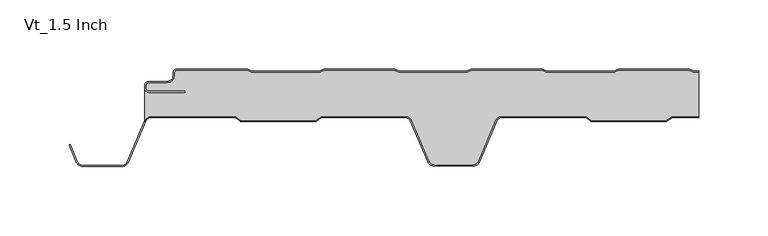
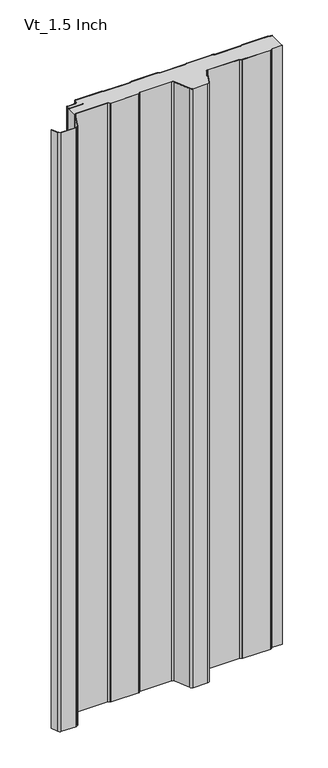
"""IFC4 building model written with IfcOpenShell, lengths in millimetres: plate geometry, AWIP_R18_CP_HR5_Vt_Roof Panel : Vt_1.5 Inch."""

from ifc_helpers import new_model, si_unit, point, frame, frame_2d, origin, origin_with_axes, place, context, project, spatial, polyline, circle_curve, trimmed, segment, composite_curve, outline, extrude, source, transform, mapped, element, save
from ifc_brep_helpers import plane_surface, cylinder_surface, revolved_surface, advanced_brep


def vt_1_5_inch_b53bcd6c(model_context):
    return source(origin(), model_context, "Body", "SolidModel", [
        extrude(outline(composite_curve([segment(polyline([(212.4037368, -1.5), (215.9042607, -1.5), (215.9042607, -2.3), (212.4037368, -2.3)]), True, "CONTINUOUS"), segment(trimmed(circle_curve(frame_2d((212.4037368, 1.0)), 3.3), [point((212.4037368, -2.3))], [point((211.0949824, -2.0293831))], False, "CARTESIAN"), True, "CONTINUOUS"), segment(polyline([(211.0949824, -2.0293831), (208.7048832, -0.9968123)]), True, "CONTINUOUS"), segment(trimmed(circle_curve(frame_2d((207.7530619, -3.2)), 2.4), [point((208.7048832, -0.9968123))], [point((207.7530619, -0.8))], True, "CARTESIAN"), True, "CONTINUOUS"), segment(polyline([(207.7530619, -0.8), (158.8384168, -0.8)]), True, "CONTINUOUS"), segment(trimmed(circle_curve(frame_2d((158.8384168, -3.2)), 2.4), [point((158.8384168, -0.8))], [point((157.8865954, -0.9968123))], True, "CARTESIAN"), True, "CONTINUOUS"), segment(polyline([(157.8865954, -0.9968123), (155.4964962, -2.0293831)]), True, "CONTINUOUS"), segment(trimmed(circle_curve(frame_2d((154.1877419, 1.0)), 3.3), [point((155.4964962, -2.0293831))], [point((154.1877419, -2.3))], False, "CARTESIAN"), True, "CONTINUOUS"), segment(polyline([(154.1877419, -2.3), (105.8037368, -2.3)]), True, "CONTINUOUS"), segment(trimmed(circle_curve(frame_2d((105.8037368, 1.0)), 3.3), [point((105.8037368, -2.3))], [point((104.4949824, -2.0293831))], False, "CARTESIAN"), True, "CONTINUOUS"), segment(polyline([(104.4949824, -2.0293831), (102.1048832, -0.9968123)]), True, "CONTINUOUS"), segment(trimmed(circle_curve(frame_2d((101.1530619, -3.2)), 2.4), [point((102.1048832, -0.9968123))], [point((101.1530619, -0.8))], True, "CARTESIAN"), True, "CONTINUOUS"), segment(polyline([(101.1530619, -0.8), (52.2384168, -0.8)]), True, "CONTINUOUS"), segment(trimmed(circle_curve(frame_2d((52.2384168, -3.2)), 2.4), [point((52.2384168, -0.8))], [point((51.2865954, -0.9968123))], True, "CARTESIAN"), True, "CONTINUOUS"), segment(polyline([(51.2865954, -0.9968123), (48.8964962, -2.0293831)]), True, "CONTINUOUS"), segment(trimmed(circle_curve(frame_2d((47.5877419, 1.0)), 3.3), [point((48.8964962, -2.0293831))], [point((47.5877419, -2.3))], False, "CARTESIAN"), True, "CONTINUOUS"), segment(polyline([(47.5877419, -2.3), (-0.7962632, -2.3)]), True, "CONTINUOUS"), segment(trimmed(circle_curve(frame_2d((-0.7962632, 1.0)), 3.3), [point((-0.7962632, -2.3))], [point((-2.1050176, -2.0293831))], False, "CARTESIAN"), True, "CONTINUOUS"), segment(polyline([(-2.1050176, -2.0293831), (-4.4951168, -0.9968123)]), True, "CONTINUOUS"), segment(trimmed(circle_curve(frame_2d((-5.4469381, -3.2)), 2.4), [point((-4.4951168, -0.9968123))], [point((-5.4469381, -0.8))], True, "CARTESIAN"), True, "CONTINUOUS"), segment(polyline([(-5.4469381, -0.8), (-54.3615832, -0.8)]), True, "CONTINUOUS"), segment(trimmed(circle_curve(frame_2d((-54.3615832, -3.2)), 2.4), [point((-54.3615832, -0.8))], [point((-55.3134046, -0.9968123))], True, "CARTESIAN"), True, "CONTINUOUS"), segment(polyline([(-55.3134046, -0.9968123), (-57.7035038, -2.0293831)]), True, "CONTINUOUS"), segment(trimmed(circle_curve(frame_2d((-59.0122581, 1.0)), 3.3), [point((-57.7035038, -2.0293831))], [point((-59.0122581, -2.3))], False, "CARTESIAN"), True, "CONTINUOUS"), segment(polyline([(-59.0122581, -2.3), (-107.3962632, -2.3)]), True, "CONTINUOUS"), segment(trimmed(circle_curve(frame_2d((-107.3962632, 1.0)), 3.3), [point((-107.3962632, -2.3))], [point((-108.7050176, -2.0293831))], False, "CARTESIAN"), True, "CONTINUOUS"), segment(polyline([(-108.7050176, -2.0293831), (-111.0951168, -0.9968123)]), True, "CONTINUOUS"), segment(trimmed(circle_curve(frame_2d((-112.0469381, -3.2)), 2.4), [point((-111.0951168, -0.9968123))], [point((-112.0469381, -0.8))], True, "CARTESIAN"), True, "CONTINUOUS"), segment(polyline([(-112.0469381, -0.8), (-161.8042607, -0.8)]), True, "CONTINUOUS"), segment(trimmed(circle_curve(frame_2d((-161.8042607, -3.0)), 2.2), [point((-161.8042607, -0.8))], [point((-164.0042607, -3.0))], True, "CARTESIAN"), True, "CONTINUOUS"), segment(polyline([(-164.0042607, -3.0), (-164.0042607, -5.0)]), True, "CONTINUOUS"), segment(trimmed(circle_curve(frame_2d((-168.8042607, -5.0)), 4.8), [point((-164.0042607, -5.0))], [point((-168.8042607, -9.8))], False, "CARTESIAN"), True, "CONTINUOUS"), segment(polyline([(-168.8042607, -9.8), (-182.3200708, -9.8)]), True, "CONTINUOUS"), segment(trimmed(circle_curve(frame_2d((-182.3200708, -12.0)), 2.2), [point((-182.3200708, -9.8))], [point((-184.5200708, -12.0))], True, "CARTESIAN"), True, "CONTINUOUS"), segment(polyline([(-184.5200708, -12.0), (-184.5200708, -14.0)]), True, "CONTINUOUS"), segment(trimmed(circle_curve(frame_2d((-182.3200708, -14.0)), 2.2), [point((-184.5200708, -14.0))], [point((-182.3200708, -16.2))], True, "CARTESIAN"), True, "CONTINUOUS"), segment(polyline([(-182.3200708, -16.2), (-156.3790289, -16.2), (-156.3790289, -17.0), (-182.3200708, -17.0)]), True, "CONTINUOUS"), segment(trimmed(circle_curve(frame_2d((-182.3200708, -14.0)), 3.0), [point((-182.3200708, -17.0))], [point((-185.3200708, -14.0))], False, "CARTESIAN"), True, "CONTINUOUS"), segment(polyline([(-185.3200708, -14.0), (-185.3200708, -12.0)]), True, "CONTINUOUS"), segment(trimmed(circle_curve(frame_2d((-182.3200708, -12.0)), 3.0), [point((-185.3200708, -12.0))], [point((-182.3200708, -9.0))], False, "CARTESIAN"), True, "CONTINUOUS"), segment(polyline([(-182.3200708, -9.0), (-168.8042607, -9.0)]), True, "CONTINUOUS"), segment(trimmed(circle_curve(frame_2d((-168.8042607, -5.0)), 4.0), [point((-168.8042607, -9.0))], [point((-164.8042607, -5.0))], True, "CARTESIAN"), True, "CONTINUOUS"), segment(polyline([(-164.8042607, -5.0), (-164.8042607, -3.0)]), True, "CONTINUOUS"), segment(trimmed(circle_curve(frame_2d((-161.8042607, -3.0)), 3.0), [point((-164.8042607, -3.0))], [point((-161.8042607, 0.0))], False, "CARTESIAN"), True, "CONTINUOUS"), segment(polyline([(-161.8042607, 0.0), (-112.0469381, 0.0)]), True, "CONTINUOUS"), segment(trimmed(circle_curve(frame_2d((-112.0469381, -3.2)), 3.2), [point((-112.0469381, 0.0))], [point((-110.777843, -0.2624164))], False, "CARTESIAN"), True, "CONTINUOUS"), segment(polyline([(-110.777843, -0.2624164), (-108.3877438, -1.2949872)]), True, "CONTINUOUS"), segment(trimmed(circle_curve(frame_2d((-107.3962632, 1.0)), 2.5), [point((-108.3877438, -1.2949872))], [point((-107.3962632, -1.5))], True, "CARTESIAN"), True, "CONTINUOUS"), segment(polyline([(-107.3962632, -1.5), (-59.0122581, -1.5)]), True, "CONTINUOUS"), segment(trimmed(circle_curve(frame_2d((-59.0122581, 1.0)), 2.5), [point((-59.0122581, -1.5))], [point((-58.0207775, -1.2949872))], True, "CARTESIAN"), True, "CONTINUOUS"), segment(polyline([(-58.0207775, -1.2949872), (-55.6306783, -0.2624164)]), True, "CONTINUOUS"), segment(trimmed(circle_curve(frame_2d((-54.3615832, -3.2)), 3.2), [point((-55.6306783, -0.2624164))], [point((-54.3615832, 0.0))], False, "CARTESIAN"), True, "CONTINUOUS"), segment(polyline([(-54.3615832, 0.0), (-5.4469381, 0.0)]), True, "CONTINUOUS"), segment(trimmed(circle_curve(frame_2d((-5.4469381, -3.2)), 3.2), [point((-5.4469381, 0.0))], [point((-4.177843, -0.2624164))], False, "CARTESIAN"), True, "CONTINUOUS"), segment(polyline([(-4.177843, -0.2624164), (-1.7877438, -1.2949872)]), True, "CONTINUOUS"), segment(trimmed(circle_curve(frame_2d((-0.7962632, 1.0)), 2.5), [point((-1.7877438, -1.2949872))], [point((-0.7962632, -1.5))], True, "CARTESIAN"), True, "CONTINUOUS"), segment(polyline([(-0.7962632, -1.5), (47.5877419, -1.5)]), True, "CONTINUOUS"), segment(trimmed(circle_curve(frame_2d((47.5877419, 1.0)), 2.5), [point((47.5877419, -1.5))], [point((48.5792225, -1.2949872))], True, "CARTESIAN"), True, "CONTINUOUS"), segment(polyline([(48.5792225, -1.2949872), (50.9693217, -0.2624164)]), True, "CONTINUOUS"), segment(trimmed(circle_curve(frame_2d((52.2384168, -3.2)), 3.2), [point((50.9693217, -0.2624164))], [point((52.2384168, 0.0))], False, "CARTESIAN"), True, "CONTINUOUS"), segment(polyline([(52.2384168, 0.0), (101.1530619, 0.0)]), True, "CONTINUOUS"), segment(trimmed(circle_curve(frame_2d((101.1530619, -3.2)), 3.2), [point((101.1530619, 0.0))], [point((102.422157, -0.2624164))], False, "CARTESIAN"), True, "CONTINUOUS"), segment(polyline([(102.422157, -0.2624164), (104.8122562, -1.2949872)]), True, "CONTINUOUS"), segment(trimmed(circle_curve(frame_2d((105.8037368, 1.0)), 2.5), [point((104.8122562, -1.2949872))], [point((105.8037368, -1.5))], True, "CARTESIAN"), True, "CONTINUOUS"), segment(polyline([(105.8037368, -1.5), (154.1877419, -1.5)]), True, "CONTINUOUS"), segment(trimmed(circle_curve(frame_2d((154.1877419, 1.0)), 2.5), [point((154.1877419, -1.5))], [point((155.1792225, -1.2949872))], True, "CARTESIAN"), True, "CONTINUOUS"), segment(polyline([(155.1792225, -1.2949872), (157.5693217, -0.2624164)]), True, "CONTINUOUS"), segment(trimmed(circle_curve(frame_2d((158.8384168, -3.2)), 3.2), [point((157.5693217, -0.2624164))], [point((158.8384168, 0.0))], False, "CARTESIAN"), True, "CONTINUOUS"), segment(polyline([(158.8384168, 0.0), (207.7530619, 0.0)]), True, "CONTINUOUS"), segment(trimmed(circle_curve(frame_2d((207.7530619, -3.2)), 3.2), [point((207.7530619, 0.0))], [point((209.022157, -0.2624164))], False, "CARTESIAN"), True, "CONTINUOUS"), segment(polyline([(209.022157, -0.2624164), (211.4122562, -1.2949872)]), True, "CONTINUOUS"), segment(trimmed(circle_curve(frame_2d((212.4037368, 1.0)), 2.5), [point((211.4122562, -1.2949872))], [point((212.4037368, -1.5))], True, "CARTESIAN"), True, "CONTINUOUS")], self_intersect=False)), origin_with_axes(), (0.0, 0.0, 1.0), 1219.2),
        advanced_brep(
        [(215.9042607, -34.515881, 1219.2), (215.9042607, -34.515881, 0.0), (215.9042607, -2.3, 0.0), (215.9042607, -2.3, 1219.2), (20.6286335, -66.9261781, 1219.2), (20.6286335, -66.9261781, 0.0), (24.4947652, -69.4851339, 0.0), (24.4947652, -69.4851339, 1219.2), (8.1129027, -37.4404018, 1219.2), (8.1129027, -37.4404018, 0.0), (3.6944665, -34.5158809, 1219.2), (3.6944665, -34.5158809, 0.0), (-57.1542841, -34.5158809, 1219.2), (-57.1542841, -34.5158809, 0.0), (-57.915674, -34.76218, 1219.2), (-57.915674, -34.76218, 0.0), (-61.4278085, -37.3000003, 1219.2), (-61.4278085, -37.3000003, 0.0), (-115.6306887, -37.3000003, 1219.2), (-115.6306887, -37.3000003, 0.0), (-119.1428234, -34.7621799, 1219.2), (-119.1428234, -34.7621799, 0.0), (-119.9042132, -34.5158808, 1219.2), (-119.9042132, -34.5158808, 0.0), (-180.6881301, -34.5158808, 1219.2), (-180.6881301, -34.5158808, 0.0), (-185.3370174, -38.1209553, 1219.2), (-185.3370174, -38.1209553, 0.0), (-185.3370174, -14.0, 1219.2), (-185.3370174, -14.0, 0.0), (-182.3370174, -17.0, 1219.2), (-182.3370174, -17.0, 0.0), (-156.3959754, -17.0, 1219.2), (-156.3959754, -17.0, 0.0), (-156.3959754, -16.2, 1219.2), (-156.3959754, -16.2, 0.0), (-182.3370174, -16.2, 1219.2), (-182.3370174, -16.2, 0.0), (-184.5370174, -14.0, 1219.2), (-184.5370174, -14.0, 0.0), (-184.5370174, -12.0, 1219.2), (-184.5370174, -12.0, 0.0), (-182.3370174, -9.8, 1219.2), (-182.3370174, -9.8, 0.0), (-168.8212072, -9.8, 1219.2), (-168.8212072, -9.8, 0.0), (-164.0212072, -5.0, 1219.2), (-164.0212072, -5.0, 0.0), (-164.0212072, -3.0, 1219.2), (-164.0212072, -3.0, 0.0), (-161.8212072, -0.8, 1219.2), (-161.8212072, -0.8, 0.0), (-112.0638847, -0.8, 1219.2), (-112.0638847, -0.8, 0.0), (-111.1120633, -0.9968123, 1219.2), (-111.1120633, -0.9968123, 0.0), (-108.7219641, -2.0293831, 1219.2), (-108.7219641, -2.0293831, 0.0), (-107.4132098, -2.3, 1219.2), (-107.4132098, -2.3, 0.0), (-59.0292047, -2.3, 1219.2), (-59.0292047, -2.3, 0.0), (-57.7204503, -2.0293831, 1219.2), (-57.7204503, -2.0293831, 0.0), (-55.3303511, -0.9968123, 1219.2), (-55.3303511, -0.9968123, 0.0), (-54.3785298, -0.8, 1219.2), (-54.3785298, -0.8, 0.0), (-5.4638847, -0.8, 1219.2), (-5.4638847, -0.8, 0.0), (-4.5120633, -0.9968123, 1219.2), (-4.5120633, -0.9968123, 0.0), (52.1967135, -69.4851339, 1219.2), (56.0628451, -66.9261781, 1219.2), (68.5785758, -37.440402, 1219.2), (72.9970122, -34.515881, 1219.2), (133.8457671, -34.515881, 1219.2), (134.607157, -34.7621802, 1219.2), (138.119291, -37.3000003, 1219.2), (192.3221722, -37.3000003, 1219.2), (195.8343063, -34.7621803, 1219.2), (196.5956965, -34.515881, 1219.2), (212.3867902, -2.3, 1219.2), (211.0780359, -2.0293831, 1219.2), (208.6879367, -0.9968123, 1219.2), (207.7361153, -0.8, 1219.2), (158.8214702, -0.8, 1219.2), (157.8696489, -0.9968123, 1219.2), (155.4795497, -2.0293831, 1219.2), (154.1707953, -2.3, 1219.2), (105.7867902, -2.3, 1219.2), (104.4780359, -2.0293831, 1219.2), (102.0879367, -0.9968123, 1219.2), (101.1361153, -0.8, 1219.2), (52.2214702, -0.8, 1219.2), (51.2696489, -0.9968123, 1219.2), (48.8795497, -2.0293831, 1219.2), (47.5707953, -2.3, 1219.2), (-0.8132098, -2.3, 1219.2), (-2.1219641, -2.0293831, 1219.2), (52.1967135, -69.4851339, 0.0), (-2.1219641, -2.0293831, 0.0), (-0.8132098, -2.3, 0.0), (47.5707953, -2.3, 0.0), (48.8795497, -2.0293831, 0.0), (51.2696489, -0.9968123, 0.0), (52.2214702, -0.8, 0.0), (101.1361153, -0.8, 0.0), (102.0879367, -0.9968123, 0.0), (104.4780359, -2.0293831, 0.0), (105.7867902, -2.3, 0.0), (154.1707953, -2.3, 0.0), (155.4795497, -2.0293831, 0.0), (157.8696489, -0.9968123, 0.0), (158.8214702, -0.8, 0.0), (207.7361153, -0.8, 0.0), (208.6879367, -0.9968123, 0.0), (211.0780359, -2.0293831, 0.0), (212.3867902, -2.3, 0.0), (196.5956965, -34.515881, 0.0), (195.8343063, -34.7621803, 0.0), (192.3221722, -37.3000003, 0.0), (138.119291, -37.3000003, 0.0), (134.607157, -34.7621802, 0.0), (133.8457671, -34.515881, 0.0), (72.9970122, -34.515881, 0.0), (68.5785758, -37.440402, 0.0), (56.0628451, -66.9261781, 0.0)],
        [
            (0, 1),
            (1, 2),
            (2, 3),
            (3, 0),
            (4, 5),
            (5, 6, circle_curve(frame((24.4947652, -65.2851339, 0.0), z_axis=(0.0, 0.0, 1.0), x_axis=(1.0, 0.0, 0.0)), 4.2)),
            (6, 7),
            (7, 4, circle_curve(frame((24.4947652, -65.2851339, 1219.2), z_axis=(0.0, 0.0, -1.0), x_axis=(1.0, 0.0, 0.0)), 4.2)),
            (8, 9),
            (9, 5),
            (4, 8),
            (10, 11),
            (11, 9, circle_curve(frame((3.6944665, -39.3158809, 0.0), z_axis=(0.0, 0.0, -1.0), x_axis=(1.0, 0.0, 0.0)), 4.8000001)),
            (8, 10, circle_curve(frame((3.6944665, -39.3158809, 1219.2), z_axis=(0.0, 0.0, 1.0), x_axis=(1.0, 0.0, 0.0)), 4.8000001)),
            (12, 13),
            (13, 11),
            (10, 12),
            (14, 15),
            (15, 13, circle_curve(frame((-57.1542841, -35.8158809, 0.0), z_axis=(0.0, 0.0, -1.0), x_axis=(1.0, 0.0, 0.0)), 1.3)),
            (12, 14, circle_curve(frame((-57.1542841, -35.8158809, 1219.2), z_axis=(0.0, 0.0, 1.0), x_axis=(1.0, 0.0, 0.0)), 1.3)),
            (16, 17),
            (17, 15),
            (14, 16),
            (18, 19),
            (19, 17),
            (16, 18),
            (20, 21),
            (21, 19),
            (18, 20),
            (22, 23),
            (23, 21, circle_curve(frame((-119.9042132, -35.8158808, 0.0), z_axis=(0.0, 0.0, -1.0), x_axis=(1.0, 0.0, 0.0)), 1.3)),
            (20, 22, circle_curve(frame((-119.9042132, -35.8158808, 1219.2), z_axis=(0.0, 0.0, 1.0), x_axis=(1.0, 0.0, 0.0)), 1.3)),
            (24, 25),
            (25, 23),
            (22, 24),
            (26, 27),
            (27, 25, circle_curve(frame((-180.6881301, -39.3158808, 0.0), z_axis=(0.0, 0.0, -1.0), x_axis=(1.0, 0.0, 0.0)), 4.8)),
            (24, 26, circle_curve(frame((-180.6881301, -39.3158808, 1219.2), z_axis=(0.0, 0.0, 1.0), x_axis=(1.0, 0.0, 0.0)), 4.8)),
            (28, 29),
            (29, 27),
            (26, 28),
            (30, 31),
            (31, 29, circle_curve(frame((-182.3370174, -14.0, 0.0), z_axis=(0.0, 0.0, -1.0), x_axis=(1.0, 0.0, 0.0)), 3.0)),
            (28, 30, circle_curve(frame((-182.3370174, -14.0, 1219.2), z_axis=(0.0, 0.0, 1.0), x_axis=(1.0, 0.0, 0.0)), 3.0)),
            (32, 33),
            (33, 31),
            (30, 32),
            (34, 35),
            (35, 33),
            (32, 34),
            (36, 37),
            (37, 35),
            (34, 36),
            (38, 39),
            (39, 37, circle_curve(frame((-182.3370174, -14.0, 0.0), z_axis=(0.0, 0.0, 1.0), x_axis=(1.0, 0.0, 0.0)), 2.2)),
            (36, 38, circle_curve(frame((-182.3370174, -14.0, 1219.2), z_axis=(0.0, 0.0, -1.0), x_axis=(1.0, 0.0, 0.0)), 2.2)),
            (40, 41),
            (41, 39),
            (38, 40),
            (42, 43),
            (43, 41, circle_curve(frame((-182.3370174, -12.0, 0.0), z_axis=(0.0, 0.0, 1.0), x_axis=(1.0, 0.0, 0.0)), 2.2)),
            (40, 42, circle_curve(frame((-182.3370174, -12.0, 1219.2), z_axis=(0.0, 0.0, -1.0), x_axis=(1.0, 0.0, 0.0)), 2.2)),
            (44, 45),
            (45, 43),
            (42, 44),
            (46, 47),
            (47, 45, circle_curve(frame((-168.8212072, -5.0, 0.0), z_axis=(0.0, 0.0, -1.0), x_axis=(1.0, 0.0, 0.0)), 4.8)),
            (44, 46, circle_curve(frame((-168.8212072, -5.0, 1219.2), z_axis=(0.0, 0.0, 1.0), x_axis=(1.0, 0.0, 0.0)), 4.8)),
            (48, 49),
            (49, 47),
            (46, 48),
            (50, 51),
            (51, 49, circle_curve(frame((-161.8212072, -3.0, 0.0), z_axis=(0.0, 0.0, 1.0), x_axis=(1.0, 0.0, 0.0)), 2.2)),
            (48, 50, circle_curve(frame((-161.8212072, -3.0, 1219.2), z_axis=(0.0, 0.0, -1.0), x_axis=(1.0, 0.0, 0.0)), 2.2)),
            (52, 53),
            (53, 51),
            (50, 52),
            (54, 55),
            (55, 53, circle_curve(frame((-112.0638847, -3.2, 0.0), z_axis=(0.0, 0.0, 1.0), x_axis=(1.0, 0.0, 0.0)), 2.4)),
            (52, 54, circle_curve(frame((-112.0638847, -3.2, 1219.2), z_axis=(0.0, 0.0, -1.0), x_axis=(1.0, 0.0, 0.0)), 2.4)),
            (56, 57),
            (57, 55),
            (54, 56),
            (58, 59),
            (59, 57, circle_curve(frame((-107.4132098, 1.0, 0.0), z_axis=(0.0, 0.0, -1.0), x_axis=(1.0, 0.0, 0.0)), 3.3)),
            (56, 58, circle_curve(frame((-107.4132098, 1.0, 1219.2), z_axis=(0.0, 0.0, 1.0), x_axis=(1.0, 0.0, 0.0)), 3.3)),
            (60, 61),
            (61, 59),
            (58, 60),
            (62, 63),
            (63, 61, circle_curve(frame((-59.0292047, 1.0, 0.0), z_axis=(0.0, 0.0, -1.0), x_axis=(1.0, 0.0, 0.0)), 3.3)),
            (60, 62, circle_curve(frame((-59.0292047, 1.0, 1219.2), z_axis=(0.0, 0.0, 1.0), x_axis=(1.0, 0.0, 0.0)), 3.3)),
            (64, 65),
            (65, 63),
            (62, 64),
            (66, 67),
            (67, 65, circle_curve(frame((-54.3785298, -3.2, 0.0), z_axis=(0.0, 0.0, 1.0), x_axis=(1.0, 0.0, 0.0)), 2.4)),
            (64, 66, circle_curve(frame((-54.3785298, -3.2, 1219.2), z_axis=(0.0, 0.0, -1.0), x_axis=(1.0, 0.0, 0.0)), 2.4)),
            (68, 69),
            (69, 67),
            (66, 68),
            (70, 71),
            (71, 69, circle_curve(frame((-5.4638847, -3.2, 0.0), z_axis=(0.0, 0.0, 1.0), x_axis=(1.0, 0.0, 0.0)), 2.4)),
            (68, 70, circle_curve(frame((-5.4638847, -3.2, 1219.2), z_axis=(0.0, 0.0, -1.0), x_axis=(1.0, 0.0, 0.0)), 2.4)),
            (72, 73, circle_curve(frame((52.1967135, -65.2851339, 1219.2), z_axis=(0.0, 0.0, 1.0), x_axis=(1.0, 0.0, 0.0)), 4.2)),
            (73, 74),
            (74, 75, circle_curve(frame((72.9970122, -39.3158812, 1219.2), z_axis=(0.0, 0.0, -1.0), x_axis=(1.0, 0.0, 0.0)), 4.8000002)),
            (75, 76),
            (76, 77, circle_curve(frame((133.8457671, -35.815881, 1219.2), z_axis=(0.0, 0.0, -1.0), x_axis=(1.0, 0.0, 0.0)), 1.3)),
            (77, 78),
            (78, 79),
            (79, 80),
            (80, 81, circle_curve(frame((196.5956965, -35.8158817, 1219.2), z_axis=(0.0, 0.0, -1.0), x_axis=(1.0, 0.0, 0.0)), 1.3000007)),
            (81, 0),
            (3, 82),
            (82, 83, circle_curve(frame((212.3867902, 1.0, 1219.2), z_axis=(0.0, 0.0, -1.0), x_axis=(1.0, 0.0, 0.0)), 3.3)),
            (83, 84),
            (84, 85, circle_curve(frame((207.7361153, -3.2, 1219.2), z_axis=(0.0, 0.0, 1.0), x_axis=(1.0, 0.0, 0.0)), 2.4)),
            (85, 86),
            (86, 87, circle_curve(frame((158.8214702, -3.2, 1219.2), z_axis=(0.0, 0.0, 1.0), x_axis=(1.0, 0.0, 0.0)), 2.4)),
            (87, 88),
            (88, 89, circle_curve(frame((154.1707953, 1.0, 1219.2), z_axis=(0.0, 0.0, -1.0), x_axis=(1.0, 0.0, 0.0)), 3.3)),
            (89, 90),
            (90, 91, circle_curve(frame((105.7867902, 1.0, 1219.2), z_axis=(0.0, 0.0, -1.0), x_axis=(1.0, 0.0, 0.0)), 3.3)),
            (91, 92),
            (92, 93, circle_curve(frame((101.1361153, -3.2, 1219.2), z_axis=(0.0, 0.0, 1.0), x_axis=(1.0, 0.0, 0.0)), 2.4)),
            (93, 94),
            (94, 95, circle_curve(frame((52.2214702, -3.2, 1219.2), z_axis=(0.0, 0.0, 1.0), x_axis=(1.0, 0.0, 0.0)), 2.4)),
            (95, 96),
            (96, 97, circle_curve(frame((47.5707953, 1.0, 1219.2), z_axis=(0.0, 0.0, -1.0), x_axis=(1.0, 0.0, 0.0)), 3.3)),
            (97, 98),
            (98, 99, circle_curve(frame((-0.8132098, 1.0, 1219.2), z_axis=(0.0, 0.0, -1.0), x_axis=(1.0, 0.0, 0.0)), 3.3)),
            (99, 70),
            (7, 72),
            (100, 6),
            (71, 101),
            (101, 102, circle_curve(frame((-0.8132098, 1.0, 0.0), z_axis=(0.0, 0.0, 1.0), x_axis=(1.0, 0.0, 0.0)), 3.3)),
            (102, 103),
            (103, 104, circle_curve(frame((47.5707953, 1.0, 0.0), z_axis=(0.0, 0.0, 1.0), x_axis=(1.0, 0.0, 0.0)), 3.3)),
            (104, 105),
            (105, 106, circle_curve(frame((52.2214702, -3.2, 0.0), z_axis=(0.0, 0.0, -1.0), x_axis=(1.0, 0.0, 0.0)), 2.4)),
            (106, 107),
            (107, 108, circle_curve(frame((101.1361153, -3.2, 0.0), z_axis=(0.0, 0.0, -1.0), x_axis=(1.0, 0.0, 0.0)), 2.4)),
            (108, 109),
            (109, 110, circle_curve(frame((105.7867902, 1.0, 0.0), z_axis=(0.0, 0.0, 1.0), x_axis=(1.0, 0.0, 0.0)), 3.3)),
            (110, 111),
            (111, 112, circle_curve(frame((154.1707953, 1.0, 0.0), z_axis=(0.0, 0.0, 1.0), x_axis=(1.0, 0.0, 0.0)), 3.3)),
            (112, 113),
            (113, 114, circle_curve(frame((158.8214702, -3.2, 0.0), z_axis=(0.0, 0.0, -1.0), x_axis=(1.0, 0.0, 0.0)), 2.4)),
            (114, 115),
            (115, 116, circle_curve(frame((207.7361153, -3.2, 0.0), z_axis=(0.0, 0.0, -1.0), x_axis=(1.0, 0.0, 0.0)), 2.4)),
            (116, 117),
            (117, 118, circle_curve(frame((212.3867902, 1.0, 0.0), z_axis=(0.0, 0.0, 1.0), x_axis=(1.0, 0.0, 0.0)), 3.3)),
            (118, 2),
            (1, 119),
            (119, 120, circle_curve(frame((196.5956965, -35.8158817, 0.0), z_axis=(0.0, 0.0, 1.0), x_axis=(1.0, 0.0, 0.0)), 1.3000007)),
            (120, 121),
            (121, 122),
            (122, 123),
            (123, 124, circle_curve(frame((133.8457671, -35.815881, 0.0), z_axis=(0.0, 0.0, 1.0), x_axis=(1.0, 0.0, 0.0)), 1.3)),
            (124, 125),
            (125, 126, circle_curve(frame((72.9970122, -39.3158812, 0.0), z_axis=(0.0, 0.0, 1.0), x_axis=(1.0, 0.0, 0.0)), 4.8000002)),
            (126, 127),
            (127, 100, circle_curve(frame((52.1967135, -65.2851339, 0.0), z_axis=(0.0, 0.0, -1.0), x_axis=(1.0, 0.0, 0.0)), 4.2)),
            (100, 72),
            (99, 101),
            (98, 102),
            (97, 103),
            (96, 104),
            (95, 105),
            (94, 106),
            (93, 107),
            (92, 108),
            (91, 109),
            (90, 110),
            (89, 111),
            (88, 112),
            (87, 113),
            (86, 114),
            (85, 115),
            (84, 116),
            (83, 117),
            (82, 118),
            (81, 119),
            (80, 120),
            (79, 121),
            (78, 122),
            (77, 123),
            (76, 124),
            (75, 125),
            (74, 126),
            (73, 127),
        ],
        [
            plane_surface(frame((215.9042607, -103.1, 1219.2), z_axis=(1.0, 0.0, 0.0), x_axis=(0.0, 0.0, -1.0))),
            cylinder_surface(frame((24.4947652, -65.2851339, 1219.2), z_axis=(0.0, 0.0, 1.0), x_axis=(1.0, 0.0, 0.0)), 4.2),
            plane_surface(frame((20.6286335, -66.9261781, 1219.2), z_axis=(-0.9205075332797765, -0.39072481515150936, 0.0), x_axis=(0.0, 0.0, -1.0))),
            revolved_surface(polyline([(8.494466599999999, -39.3158809, 0.0), (8.494466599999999, -39.3158809, 1219.2)]), (3.6944665, -39.3158809, 1219.2), (0.0, 0.0, -1.0)),
            plane_surface(frame((3.6944665, -34.5158809, 1219.2), z_axis=(0.0, -1.0, 0.0), x_axis=(0.0, 0.0, -1.0))),
            revolved_surface(polyline([(-55.8542841, -35.8158809, 0.0), (-55.8542841, -35.8158809, 1219.2)]), (-57.1542841, -35.8158809, 1219.2), (0.0, 0.0, -1.0)),
            plane_surface(frame((-57.915674, -34.76218, 1219.2), z_axis=(0.5856844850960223, -0.8105391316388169, 0.0), x_axis=(0.0, 0.0, -1.0))),
            plane_surface(frame((-61.4278085, -37.3000003, 1219.2), z_axis=(0.0, -1.0, 0.0), x_axis=(0.0, 0.0, -1.0))),
            plane_surface(frame((-115.6306887, -37.3000003, 1219.2), z_axis=(-0.5856844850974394, -0.8105391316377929, 0.0), x_axis=(0.0, 0.0, -1.0))),
            revolved_surface(polyline([(-118.6042132, -35.8158808, 0.0), (-118.6042132, -35.8158808, 1219.2)]), (-119.9042132, -35.8158808, 1219.2), (0.0, 0.0, -1.0)),
            plane_surface(frame((-119.9042132, -34.5158808, 1219.2), z_axis=(0.0, -1.0, 0.0), x_axis=(0.0, 0.0, -1.0))),
            revolved_surface(polyline([(-175.88813009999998, -39.3158808, 0.0), (-175.88813009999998, -39.3158808, 1219.2)]), (-180.6881301, -39.3158808, 1219.2), (0.0, 0.0, -1.0)),
            plane_surface(frame((-185.3370174, -38.1209553, 1219.2), z_axis=(-1.0, 0.0, 0.0), x_axis=(0.0, 0.0, -1.0))),
            revolved_surface(polyline([(-179.3370174, -14.0, 0.0), (-179.3370174, -14.0, 1219.2)]), (-182.3370174, -14.0, 1219.2), (0.0, 0.0, -1.0)),
            plane_surface(frame((-182.3370174, -17.0, 1219.2), z_axis=(0.0, 1.0, 0.0), x_axis=(0.0, 0.0, -1.0))),
            plane_surface(frame((-156.3959754, -17.0, 1219.2), z_axis=(-1.0, 0.0, 0.0), x_axis=(0.0, 0.0, -1.0))),
            plane_surface(frame((-156.3959754, -16.2, 1219.2), z_axis=(0.0, -1.0, 0.0), x_axis=(0.0, 0.0, -1.0))),
            cylinder_surface(frame((-182.3370174, -14.0, 1219.2), z_axis=(0.0, 0.0, 1.0), x_axis=(1.0, 0.0, 0.0)), 2.2),
            plane_surface(frame((-184.5370174, -14.0, 1219.2), z_axis=(-1.0, 0.0, 0.0), x_axis=(0.0, 0.0, -1.0))),
            cylinder_surface(frame((-182.3370174, -12.0, 1219.2), z_axis=(0.0, 0.0, 1.0), x_axis=(1.0, 0.0, 0.0)), 2.2),
            plane_surface(frame((-182.3370174, -9.8, 1219.2), z_axis=(0.0, 1.0, 0.0), x_axis=(0.0, 0.0, -1.0))),
            revolved_surface(polyline([(-164.0212072, -5.0, 0.0), (-164.0212072, -5.0, 1219.2)]), (-168.8212072, -5.0, 1219.2), (0.0, 0.0, -1.0)),
            plane_surface(frame((-164.0212072, -5.0, 1219.2), z_axis=(-1.0, 0.0, 0.0), x_axis=(0.0, 0.0, -1.0))),
            cylinder_surface(frame((-161.8212072, -3.0, 1219.2), z_axis=(0.0, 0.0, 1.0), x_axis=(1.0, 0.0, 0.0)), 2.2),
            plane_surface(frame((-161.8212072, -0.8, 1219.2), z_axis=(0.0, 1.0, 0.0), x_axis=(0.0, 0.0, -1.0))),
            cylinder_surface(frame((-112.0638847, -3.2, 1219.2), z_axis=(0.0, 0.0, 1.0), x_axis=(1.0, 0.0, 0.0)), 2.4),
            plane_surface(frame((-111.1120633, -0.9968123, 1219.2), z_axis=(0.3965922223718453, 0.9179948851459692, 0.0), x_axis=(0.0, 0.0, -1.0))),
            revolved_surface(polyline([(-104.1132098, 1.0, 0.0), (-104.1132098, 1.0, 1219.2)]), (-107.4132098, 1.0, 1219.2), (0.0, 0.0, -1.0)),
            plane_surface(frame((-107.4132098, -2.3, 1219.2), z_axis=(0.0, 1.0, 0.0), x_axis=(0.0, 0.0, -1.0))),
            revolved_surface(polyline([(-55.729204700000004, 1.0, 0.0), (-55.729204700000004, 1.0, 1219.2)]), (-59.0292047, 1.0, 1219.2), (0.0, 0.0, -1.0)),
            plane_surface(frame((-57.7204503, -2.0293831, 1219.2), z_axis=(-0.396592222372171, 0.9179948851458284, 0.0), x_axis=(0.0, 0.0, -1.0))),
            cylinder_surface(frame((-54.3785298, -3.2, 1219.2), z_axis=(0.0, 0.0, 1.0), x_axis=(1.0, 0.0, 0.0)), 2.4),
            plane_surface(frame((-54.3785298, -0.8, 1219.2), z_axis=(0.0, 1.0, 0.0), x_axis=(0.0, 0.0, -1.0))),
            cylinder_surface(frame((-5.4638847, -3.2, 1219.2), z_axis=(0.0, 0.0, 1.0), x_axis=(1.0, 0.0, 0.0)), 2.4),
            plane_surface(frame((292.0957393, -0.8, 1219.2), z_axis=(0.0, 0.0, 1.0), x_axis=(0.0, -1.0, 0.0))),
            plane_surface(frame((292.0957393, -0.8, 0.0), z_axis=(0.0, 0.0, -1.0), x_axis=(0.0, -1.0, 0.0))),
            plane_surface(frame((52.1967135, -69.4851339, 1219.2), z_axis=(0.0, -1.0, 0.0), x_axis=(0.0, 0.0, -1.0))),
            plane_surface(frame((-4.5120633, -0.9968123, 1219.2), z_axis=(0.3965922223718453, 0.9179948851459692, 0.0), x_axis=(0.0, 0.0, -1.0))),
            revolved_surface(polyline([(2.4867901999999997, 1.0, 0.0), (2.4867901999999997, 1.0, 1219.2)]), (-0.8132098, 1.0, 1219.2), (0.0, 0.0, -1.0)),
            plane_surface(frame((-0.8132098, -2.3, 1219.2), z_axis=(0.0, 1.0, 0.0), x_axis=(0.0, 0.0, -1.0))),
            revolved_surface(polyline([(50.8707953, 1.0, 0.0), (50.8707953, 1.0, 1219.2)]), (47.5707953, 1.0, 1219.2), (0.0, 0.0, -1.0)),
            plane_surface(frame((48.8795497, -2.0293831, 1219.2), z_axis=(-0.396592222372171, 0.9179948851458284, 0.0), x_axis=(0.0, 0.0, -1.0))),
            cylinder_surface(frame((52.2214702, -3.2, 1219.2), z_axis=(0.0, 0.0, 1.0), x_axis=(1.0, 0.0, 0.0)), 2.4),
            plane_surface(frame((52.2214702, -0.8, 1219.2), z_axis=(0.0, 1.0, 0.0), x_axis=(0.0, 0.0, -1.0))),
            cylinder_surface(frame((101.1361153, -3.2, 1219.2), z_axis=(0.0, 0.0, 1.0), x_axis=(1.0, 0.0, 0.0)), 2.4),
            plane_surface(frame((102.0879367, -0.9968123, 1219.2), z_axis=(0.3965922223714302, 0.9179948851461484, 0.0), x_axis=(0.0, 0.0, -1.0))),
            revolved_surface(polyline([(109.0867902, 1.0, 0.0), (109.0867902, 1.0, 1219.2)]), (105.7867902, 1.0, 1219.2), (0.0, 0.0, -1.0)),
            plane_surface(frame((105.7867902, -2.3, 1219.2), z_axis=(0.0, 1.0, 0.0), x_axis=(0.0, 0.0, -1.0))),
            revolved_surface(polyline([(157.47079530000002, 1.0, 0.0), (157.47079530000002, 1.0, 1219.2)]), (154.1707953, 1.0, 1219.2), (0.0, 0.0, -1.0)),
            plane_surface(frame((155.4795497, -2.0293831, 1219.2), z_axis=(-0.396592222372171, 0.9179948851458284, 0.0), x_axis=(0.0, 0.0, -1.0))),
            cylinder_surface(frame((158.8214702, -3.2, 1219.2), z_axis=(0.0, 0.0, 1.0), x_axis=(1.0, 0.0, 0.0)), 2.4),
            plane_surface(frame((158.8214702, -0.8, 1219.2), z_axis=(0.0, 1.0, 0.0), x_axis=(0.0, 0.0, -1.0))),
            cylinder_surface(frame((207.7361153, -3.2, 1219.2), z_axis=(0.0, 0.0, 1.0), x_axis=(1.0, 0.0, 0.0)), 2.4),
            plane_surface(frame((208.6879367, -0.9968123, 1219.2), z_axis=(0.3965922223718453, 0.9179948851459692, 0.0), x_axis=(0.0, 0.0, -1.0))),
            revolved_surface(polyline([(215.68679020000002, 1.0, 0.0), (215.68679020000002, 1.0, 1219.2)]), (212.3867902, 1.0, 1219.2), (0.0, 0.0, -1.0)),
            plane_surface(frame((212.3867902, -2.3, 1219.2), z_axis=(0.0, 1.0, 0.0), x_axis=(0.0, 0.0, -1.0))),
            plane_surface(frame((257.4444665, -34.515881, 1219.2), z_axis=(0.0, -1.0, 0.0), x_axis=(0.0, 0.0, -1.0))),
            revolved_surface(polyline([(197.8956972, -35.8158817, 0.0), (197.8956972, -35.8158817, 1219.2)]), (196.5956965, -35.8158817, 1219.2), (0.0, 0.0, -1.0)),
            plane_surface(frame((195.8343063, -34.7621803, 1219.2), z_axis=(0.5856844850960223, -0.8105391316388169, 0.0), x_axis=(0.0, 0.0, -1.0))),
            plane_surface(frame((192.3221722, -37.3000003, 1219.2), z_axis=(0.0, -1.0, 0.0), x_axis=(0.0, 0.0, -1.0))),
            plane_surface(frame((138.119291, -37.3000003, 1219.2), z_axis=(-0.5856845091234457, -0.8105391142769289, 0.0), x_axis=(0.0, 0.0, -1.0))),
            revolved_surface(polyline([(135.1457671, -35.815881, 0.0), (135.1457671, -35.815881, 1219.2)]), (133.8457671, -35.815881, 1219.2), (0.0, 0.0, -1.0)),
            plane_surface(frame((133.8457671, -34.515881, 1219.2), z_axis=(0.0, -1.0, 0.0), x_axis=(0.0, 0.0, -1.0))),
            revolved_surface(polyline([(77.7970124, -39.3158812, 0.0), (77.7970124, -39.3158812, 1219.2)]), (72.9970122, -39.3158812, 1219.2), (0.0, 0.0, -1.0)),
            plane_surface(frame((68.5785758, -37.440402, 1219.2), z_axis=(0.920507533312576, -0.3907248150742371, 0.0), x_axis=(0.0, 0.0, -1.0))),
            cylinder_surface(frame((52.1967135, -65.2851339, 1219.2), z_axis=(0.0, 0.0, 1.0), x_axis=(1.0, 0.0, 0.0)), 4.2),
        ],
        [
            (0, [[1, 2, 3, 4]]),
            (1, [[5, 6, 7, 8]]),
            (2, [[9, 10, -5, 11]]),
            (3, [[12, 13, -9, 14]]),
            (4, [[15, 16, -12, 17]]),
            (5, [[18, 19, -15, 20]]),
            (6, [[21, 22, -18, 23]]),
            (7, [[24, 25, -21, 26]]),
            (8, [[27, 28, -24, 29]]),
            (9, [[30, 31, -27, 32]]),
            (10, [[33, 34, -30, 35]]),
            (11, [[36, 37, -33, 38]]),
            (12, [[39, 40, -36, 41]]),
            (13, [[42, 43, -39, 44]]),
            (14, [[45, 46, -42, 47]]),
            (15, [[48, 49, -45, 50]]),
            (16, [[51, 52, -48, 53]]),
            (17, [[54, 55, -51, 56]]),
            (18, [[57, 58, -54, 59]]),
            (19, [[60, 61, -57, 62]]),
            (20, [[63, 64, -60, 65]]),
            (21, [[66, 67, -63, 68]]),
            (22, [[69, 70, -66, 71]]),
            (23, [[72, 73, -69, 74]]),
            (24, [[75, 76, -72, 77]]),
            (25, [[78, 79, -75, 80]]),
            (26, [[81, 82, -78, 83]]),
            (27, [[84, 85, -81, 86]]),
            (28, [[87, 88, -84, 89]]),
            (29, [[90, 91, -87, 92]]),
            (30, [[93, 94, -90, 95]]),
            (31, [[96, 97, -93, 98]]),
            (32, [[99, 100, -96, 101]]),
            (33, [[102, 103, -99, 104]]),
            (34, [[105, 106, 107, 108, 109, 110, 111, 112, 113, 114, -4, 115, 116, 117, 118, 119, 120, 121, 122, 123, 124, 125, 126, 127, 128, 129, 130, 131, 132, 133, -104, -101, -98, -95, -92, -89, -86, -83, -80, -77, -74, -71, -68, -65, -62, -59, -56, -53, -50, -47, -44, -41, -38, -35, -32, -29, -26, -23, -20, -17, -14, -11, -8, 134]]),
            (35, [[135, -6, -10, -13, -16, -19, -22, -25, -28, -31, -34, -37, -40, -43, -46, -49, -52, -55, -58, -61, -64, -67, -70, -73, -76, -79, -82, -85, -88, -91, -94, -97, -100, -103, 136, 137, 138, 139, 140, 141, 142, 143, 144, 145, 146, 147, 148, 149, 150, 151, 152, 153, 154, -2, 155, 156, 157, 158, 159, 160, 161, 162, 163, 164]]),
            (36, [[-7, -135, 165, -134]]),
            (37, [[166, -136, -102, -133]]),
            (38, [[167, -137, -166, -132]]),
            (39, [[168, -138, -167, -131]]),
            (40, [[169, -139, -168, -130]]),
            (41, [[170, -140, -169, -129]]),
            (42, [[171, -141, -170, -128]]),
            (43, [[172, -142, -171, -127]]),
            (44, [[173, -143, -172, -126]]),
            (45, [[174, -144, -173, -125]]),
            (46, [[175, -145, -174, -124]]),
            (47, [[176, -146, -175, -123]]),
            (48, [[177, -147, -176, -122]]),
            (49, [[178, -148, -177, -121]]),
            (50, [[179, -149, -178, -120]]),
            (51, [[180, -150, -179, -119]]),
            (52, [[181, -151, -180, -118]]),
            (53, [[182, -152, -181, -117]]),
            (54, [[183, -153, -182, -116]]),
            (55, [[-115, -3, -154, -183]]),
            (56, [[-155, -1, -114, 184]]),
            (57, [[185, -156, -184, -113]]),
            (58, [[186, -157, -185, -112]]),
            (59, [[187, -158, -186, -111]]),
            (60, [[188, -159, -187, -110]]),
            (61, [[189, -160, -188, -109]]),
            (62, [[190, -161, -189, -108]]),
            (63, [[191, -162, -190, -107]]),
            (64, [[192, -163, -191, -106]]),
            (65, [[-165, -164, -192, -105]]),
        ],
    ),
        extrude(outline(composite_curve([segment(polyline([(196.5956965, -34.5158806), (215.9042607, -34.5158806), (215.9042607, -35.3158806), (196.4339534, -35.3158806), (192.9742585, -37.8158087)]), True, "CONTINUOUS"), segment(trimmed(circle_curve(frame_2d((192.0957318, -36.5999999)), 1.5), [point((192.9742585, -37.8158087))], [point((192.0957318, -38.0999999))], False, "CARTESIAN"), True, "CONTINUOUS"), segment(polyline([(192.0957318, -38.0999999), (138.3457318, -38.1000002)]), True, "CONTINUOUS"), segment(trimmed(circle_curve(frame_2d((138.3457318, -36.6000001)), 1.5000001), [point((138.3457318, -38.1000002))], [point((137.4672049, -37.8158088))], False, "CARTESIAN"), True, "CONTINUOUS"), segment(polyline([(137.4672049, -37.8158088), (134.00751, -35.3158803), (73.3496366, -35.3158803)]), True, "CONTINUOUS"), segment(trimmed(circle_curve(frame_2d((73.3496366, -39.3158808)), 4.0000005), [point((73.3496366, -35.3158803))], [point((69.6676059, -37.7529814))], True, "CARTESIAN"), True, "CONTINUOUS"), segment(polyline([(69.6676059, -37.7529814), (57.1388245, -67.2695044)]), True, "CONTINUOUS"), segment(trimmed(circle_curve(frame_2d((52.5362869, -65.3158803)), 5.0), [point((57.1388245, -67.2695044))], [point((52.5362869, -70.3158803))], False, "CARTESIAN"), True, "CONTINUOUS"), segment(polyline([(52.5362869, -70.3158803), (24.1551918, -70.3158803)]), True, "CONTINUOUS"), segment(trimmed(circle_curve(frame_2d((24.1551918, -65.3158803)), 5.0), [point((24.1551918, -70.3158803))], [point((19.5526541, -67.2695044))], False, "CARTESIAN"), True, "CONTINUOUS"), segment(polyline([(19.5526541, -67.2695044), (7.0238723, -37.7529813)]), True, "CONTINUOUS"), segment(trimmed(circle_curve(frame_2d((3.3418421, -39.3158806)), 4.0000001), [point((7.0238723, -37.7529813))], [point((3.3418421, -35.3158805))], True, "CARTESIAN"), True, "CONTINUOUS"), segment(polyline([(3.3418421, -35.3158805), (-57.3160273, -35.3158805), (-60.7757221, -37.8158086)]), True, "CONTINUOUS"), segment(trimmed(circle_curve(frame_2d((-61.6542488, -36.5999999)), 1.5), [point((-60.7757221, -37.8158086))], [point((-61.6552202, -38.0999996))], False, "CARTESIAN"), True, "CONTINUOUS"), segment(polyline([(-61.6552202, -38.0999996), (-115.4042488, -38.0999996)]), True, "CONTINUOUS"), segment(trimmed(circle_curve(frame_2d((-115.4042488, -36.5999996)), 1.5), [point((-115.4042488, -38.0999996))], [point((-116.2827756, -37.8158083))], False, "CARTESIAN"), True, "CONTINUOUS"), segment(polyline([(-116.2827756, -37.8158083), (-119.7424699, -35.3158804), (-180.6881301, -35.3158804)]), True, "CONTINUOUS"), segment(trimmed(circle_curve(frame_2d((-180.6881301, -39.3158804)), 4.0), [point((-180.6881301, -35.3158804))], [point((-184.3701602, -37.7529811))], True, "CARTESIAN"), True, "CONTINUOUS"), segment(polyline([(-184.3701602, -37.7529811), (-197.1111755, -67.7695045)]), True, "CONTINUOUS"), segment(trimmed(circle_curve(frame_2d((-201.7137131, -65.8158804)), 5.0), [point((-197.1111755, -67.7695045))], [point((-201.7137131, -70.8158804))], False, "CARTESIAN"), True, "CONTINUOUS"), segment(polyline([(-201.7137131, -70.8158804), (-230.0948052, -70.8158804)]), True, "CONTINUOUS"), segment(trimmed(circle_curve(frame_2d((-230.0948052, -65.8158804)), 5.0), [point((-230.0948052, -70.8158804))], [point((-234.6973445, -67.7695007))], False, "CARTESIAN"), True, "CONTINUOUS"), segment(polyline([(-234.6973445, -67.7695007), (-240.046569, -55.1672483), (-239.3095274, -54.8561658), (-233.9609382, -67.4569214)]), True, "CONTINUOUS"), segment(trimmed(circle_curve(frame_2d((-230.0948052, -65.8158804)), 4.2), [point((-233.9609382, -67.4569214))], [point((-230.0948052, -70.0158804))], True, "CARTESIAN"), True, "CONTINUOUS"), segment(polyline([(-230.0948052, -70.0158804), (-201.7137131, -70.0158804)]), True, "CONTINUOUS"), segment(trimmed(circle_curve(frame_2d((-201.7137131, -65.8158804)), 4.2), [point((-201.7137131, -70.0158804))], [point((-197.8475815, -67.4569246))], True, "CARTESIAN"), True, "CONTINUOUS"), segment(polyline([(-197.8475815, -67.4569246), (-185.1065662, -37.4404013)]), True, "CONTINUOUS"), segment(trimmed(circle_curve(frame_2d((-180.6881301, -39.3158804)), 4.8), [point((-185.1065662, -37.4404013))], [point((-180.6881301, -34.5158804))], False, "CARTESIAN"), True, "CONTINUOUS"), segment(polyline([(-180.6881301, -34.5158804), (-119.9042132, -34.5158804)]), True, "CONTINUOUS"), segment(trimmed(circle_curve(frame_2d((-119.9042132, -35.8158804)), 1.3), [point((-119.9042132, -34.5158804))], [point((-119.1428234, -34.7621795))], False, "CARTESIAN"), True, "CONTINUOUS"), segment(polyline([(-119.1428234, -34.7621795), (-115.6306887, -37.2999999), (-61.4278085, -37.2999999), (-57.915674, -34.7621796)]), True, "CONTINUOUS"), segment(trimmed(circle_curve(frame_2d((-57.1542841, -35.8158805)), 1.3), [point((-57.915674, -34.7621796))], [point((-57.1542841, -34.5158805))], False, "CARTESIAN"), True, "CONTINUOUS"), segment(polyline([(-57.1542841, -34.5158805), (3.3418421, -34.5158805)]), True, "CONTINUOUS"), segment(trimmed(circle_curve(frame_2d((3.3418421, -39.3158806)), 4.8000001), [point((3.3418421, -34.5158805))], [point((7.7602783, -37.4404014))], False, "CARTESIAN"), True, "CONTINUOUS"), segment(polyline([(7.7602783, -37.4404014), (20.2890602, -66.9569246)]), True, "CONTINUOUS"), segment(trimmed(circle_curve(frame_2d((24.1551918, -65.3158803)), 4.2), [point((20.2890602, -66.9569246))], [point((24.1551918, -69.5158803))], True, "CARTESIAN"), True, "CONTINUOUS"), segment(polyline([(24.1551918, -69.5158803), (52.5362869, -69.5158803)]), True, "CONTINUOUS"), segment(trimmed(circle_curve(frame_2d((52.5362869, -65.3158803)), 4.2), [point((52.5362869, -69.5158803))], [point((56.4024185, -66.9569246))], True, "CARTESIAN"), True, "CONTINUOUS"), segment(polyline([(56.4024185, -66.9569246), (68.9312002, -37.4404017)]), True, "CONTINUOUS"), segment(trimmed(circle_curve(frame_2d((73.3496366, -39.3158808)), 4.8000002), [point((68.9312002, -37.4404017))], [point((73.3496366, -34.5158806))], False, "CARTESIAN"), True, "CONTINUOUS"), segment(polyline([(73.3496366, -34.5158806), (133.8457671, -34.5158806)]), True, "CONTINUOUS"), segment(trimmed(circle_curve(frame_2d((133.8457671, -35.8158806)), 1.3), [point((133.8457671, -34.5158806))], [point((134.607157, -34.7621798))], False, "CARTESIAN"), True, "CONTINUOUS"), segment(polyline([(134.607157, -34.7621798), (138.119291, -37.2999999), (192.3221722, -37.2999999), (195.8343063, -34.7621799)]), True, "CONTINUOUS"), segment(trimmed(circle_curve(frame_2d((196.5956965, -35.8158813)), 1.3000007), [point((195.8343063, -34.7621799))], [point((196.5956965, -34.5158806))], False, "CARTESIAN"), True, "CONTINUOUS")], self_intersect=False)), origin_with_axes(), (0.0, 0.0, 1.0), 1219.2),
    ])


if __name__ == "__main__":
    model = new_model("IFC4")
    model_context = context("Model", 3, world=origin())
    ifc_project = project(units=[si_unit("LENGTHUNIT", "METRE", prefix="MILLI")], contexts=[model_context])
    site = spatial("IfcSite", under=ifc_project)
    building = spatial("IfcBuilding", under=site)
    placement = place(None, origin())
    vt_1_5_inch_shape = vt_1_5_inch_b53bcd6c(model_context)
    element("IfcPlate", 1, ObjectType="AWIP_R18_CP_HR5_Vt_Roof Panel : Vt_1.5 Inch", at=placement, inside=building, context=model_context, shape_type="MappedRepresentation", body=[
        mapped(vt_1_5_inch_shape, transform((0.0, 0.0, 0.0), x_axis=(1.0, 0.0, 0.0), y_axis=(0.0, 1.0, 0.0), z_axis=(0.0, 0.0, 1.0))),
    ])
    save(model, "model.ifc")
